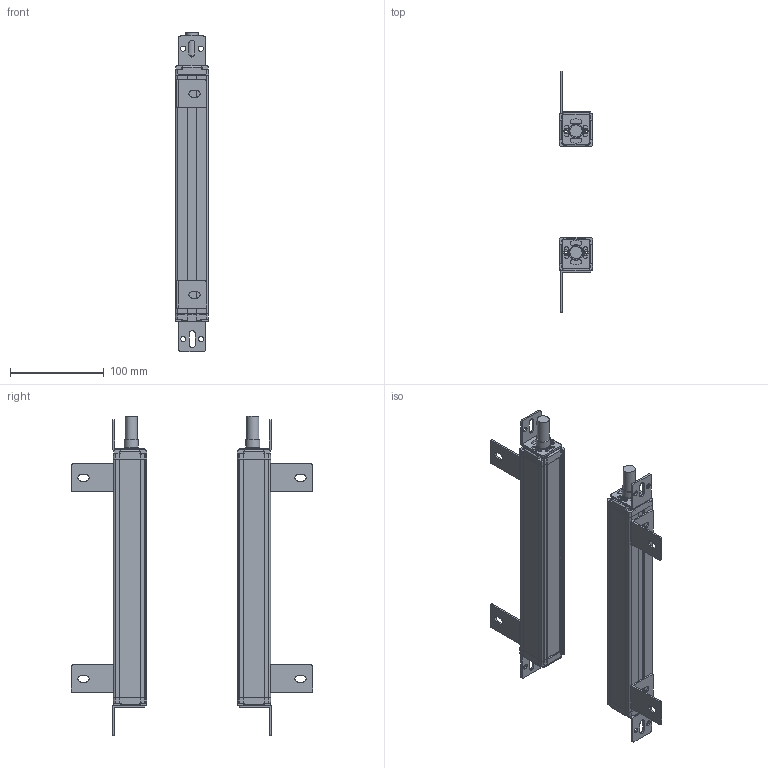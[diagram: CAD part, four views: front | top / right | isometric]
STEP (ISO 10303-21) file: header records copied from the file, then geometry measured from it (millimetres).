
FILE_DESCRIPTION(/* description */ (''),/* implementation_level */ '2;1');
FILE_NAME(/* name */ '0640_35X35.stp',/* time_stamp */ '2023-09-18T15:31:36+08:00',/* author */ (''),/* organization */ (''),/* preprocessor_version */ 'ST-DEVELOPER v16.7',/* originating_system */ 'SIEMENS PLM Software NX 12.0',/* authorisation */ '');
FILE_SCHEMA (('AP203_CONFIGURATION_CONTROLLED_3D_DESIGN_OF_MECHANICAL_PARTS_AND_ASSEMBLIES_MIM_LF { 1 0 10303 403 2 1 2}'));
Length unit declared in the file: millimetre
Products named in the file (1): 0640_35X35_stp
Bounding box: 35.41 x 258.01 x 341.6 mm (x, y, z)
Volume: 304181.5 mm3; surface area: 238078.1 mm2
Topology: 28 solids, 28 shells, 1182 faces, 3360 edges, 2260 vertices
Faces by surface type: plane 658, cylinder 464, cone 60
Full cylindrical faces by diameter (mm): 3.2 x8, 6 x24, 13 x2, 14.4 x2, 15 x2
Entity records: 39055 total; most frequent: DIRECTION 6832, CARTESIAN_POINT 6745, ORIENTED_EDGE 6612, EDGE_CURVE 3306, AXIS2_PLACEMENT_3D 2347, VERTEX_POINT 2244, LINE 2138, VECTOR 2138
